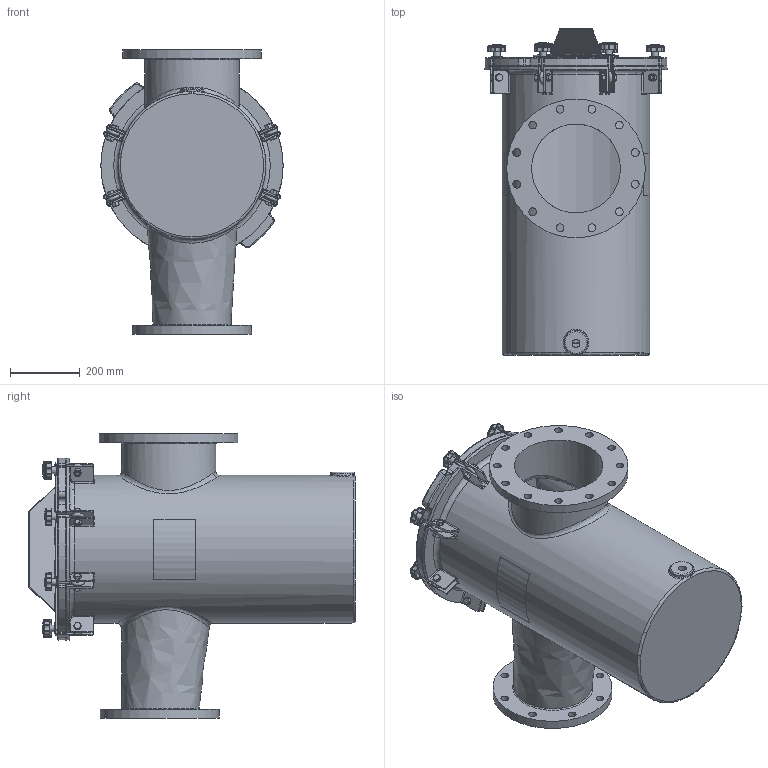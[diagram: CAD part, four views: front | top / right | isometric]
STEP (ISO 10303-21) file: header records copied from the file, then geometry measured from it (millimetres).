
FILE_DESCRIPTION(/* description */ ('250MM X 200MM FIBERGLASS STRAINER BODY'),/* implementation_level */ '2;1');
FILE_NAME(/* name */ 'E:\New folder (7)\Ready for delivery - Do not Disturb -Updated with metric Flange\Workspace\FG Reducing Strainer\Guardian FG Reducing H&L Strainer (Metric)\STRAINER H&L 250MM X 200MM.step',/* time_stamp */ '2016-10-19T04:15:17+06:00',/* author */ ('20076253'),/* organization */ (''),/* preprocessor_version */ 'ST-DEVELOPER v16.1',/* originating_system */ 'Autodesk Inventor 2016',/* authorisation */ '');
FILE_SCHEMA (('AUTOMOTIVE_DESIGN { 1 0 10303 214 3 1 1 }'));
Length unit declared in the file: inch
Products named in the file (24): NBFGBODY10X08MM; 150NBCVR20R2; 150NBGSK16R1; Perforated Basket 16in; Bride (Ring) 16in; Baffle 16in; Handle 16in; Bottom Strainer 16in; NBBSK10T316; BRACESTRCVR16_Welds; BRACE (BASE) FOR 16 BODY; BRACE (PROJ) FOR 16 BODY; Bumper; BRACESTRCVR16; Nut- 1_2  UNC; Bolt-1_2 x 1 1_2  UNC; EyeBolt; Washer; Knob M10; Securing Assembly For FG  with Brace; Securing Assembly For FG without Brace; Label for 16.625 inch (Right); Label for 16.625 inch (Left); STRAINER H&L 250MM X 200MM
Assembly tree (39 placements, depth 3):
  STRAINER H&L 250MM X 200MM
    NBFGBODY10X08MM
    150NBCVR20R2
    150NBGSK16R1
    NBBSK10T316
      Perforated Basket 16in
      Bride (Ring) 16in
      Baffle 16in
      Handle 16in
      Bottom Strainer 16in
    BRACESTRCVR16
      BRACESTRCVR16_Welds
      BRACE (BASE) FOR 16 BODY
      BRACE (PROJ) FOR 16 BODY
      Bumper  x6
    Securing Assembly For FG  with Brace  x2
      Nut- 1_2  UNC
      Bolt-1_2 x 1 1_2  UNC
      EyeBolt
      Washer
      Knob M10
    Securing Assembly For FG without Brace  x6
      Nut- 1_2  UNC
      Bolt-1_2 x 1 1_2  UNC
      EyeBolt
      Washer
      Knob M10
    Label for 16.625 inch (Right)
    Label for 16.625 inch (Left)
Bounding box: 520.7 x 933.45 x 812.8 mm (x, y, z)
Volume: 23147615.1 mm3; surface area: 5810926.6 mm2
Topology: 66 solids, 66 shells, 1804 faces, 4113 edges, 2430 vertices
Faces by surface type: cylinder 658, plane 500, cone 184, torus 166, sphere 158, bspline 138
Full cylindrical faces by diameter (mm): 3.175 x11, 6.35 x2, 8.382 x8, 9.525 x16, 10.592 x8, 12.7 x8, 15.875 x16, 19 x16, 19.05 x8, 22.098 x20, 22.809 x1, 31.75 x8, 68.263 x1, 254 x1, 269.875 x1, 295.275 x2, 298.45 x1, 300.99 x1, 340.36 x1, 396.24 x1, 406.4 x2, 409.575 x1, 415.925 x1, 422.275 x1, 457.2 x1, 463.55 x1
Entity records: 33898 total; most frequent: CARTESIAN_POINT 11107, DIRECTION 4715, ORIENTED_EDGE 4300, EDGE_CURVE 2150, AXIS2_PLACEMENT_3D 1934, VERTEX_POINT 1347, EDGE_LOOP 1167, ADVANCED_FACE 954
